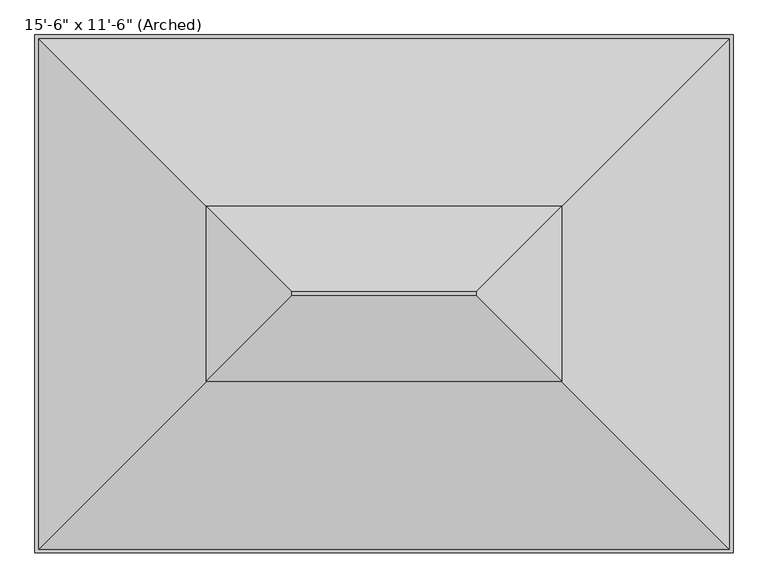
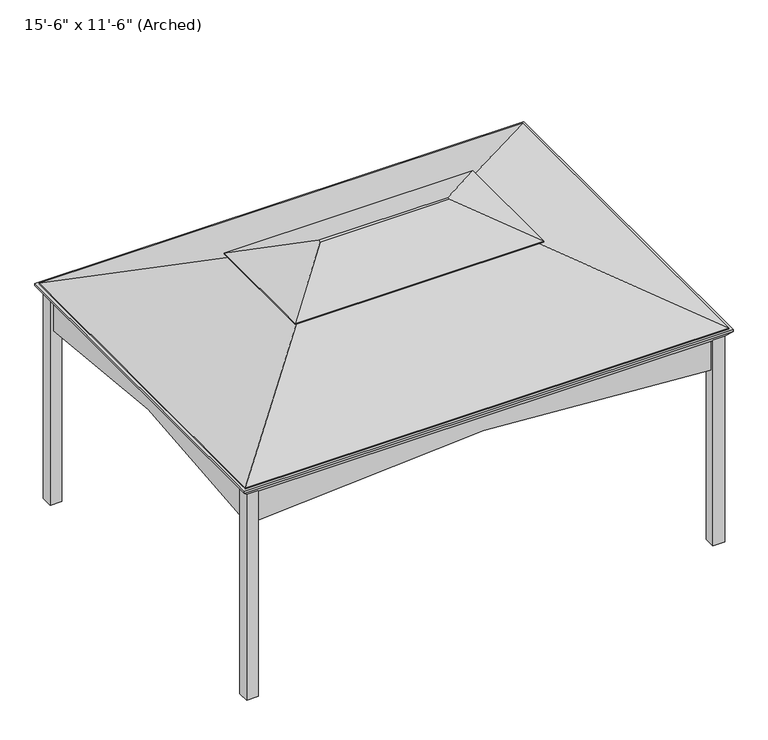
"""IFC4 building model written with IfcOpenShell, lengths in millimetres: proxy geometry."""

from ifc_helpers import new_model, si_unit, point, frame, frame_2d, origin, place, context, project, spatial, polyline, circle_curve, trimmed, segment, composite_curve, outline, extrude, faceted_brep, source, transform, mapped, element, save


def proxy_d6f00f2b(model_context):
    return source(origin(), model_context, "Body", "SolidModel", [
        extrude(outline(composite_curve([segment(polyline([(2082.8, -2197.1), (1778.0, -2197.1)]), True, "CONTINUOUS"), segment(trimmed(circle_curve(frame_2d((-13983.2291667, 0.0)), 15913.6291667), [point((1778.0, -2197.1))], [point((1778.0, 2197.1))], True, "CARTESIAN"), True, "CONTINUOUS"), segment(polyline([(1778.0, 2197.1), (2082.8, 2197.1), (2082.8, -2197.1)]), True, "CONTINUOUS")], self_intersect=False)), frame((0.0, -1670.05, 0.0), z_axis=(0.0, 1.0, 0.0), x_axis=(0.0, 0.0, 1.0)), (0.0, 0.0, 1.0), 25.4),
        extrude(outline(composite_curve([segment(polyline([(2082.8, -2197.1), (1778.0, -2197.1)]), True, "CONTINUOUS"), segment(trimmed(circle_curve(frame_2d((-13983.2291667, 0.0)), 15913.6291667), [point((1778.0, -2197.1))], [point((1778.0, 2197.1))], True, "CARTESIAN"), True, "CONTINUOUS"), segment(polyline([(1778.0, 2197.1), (2082.8, 2197.1), (2082.8, -2197.1)]), True, "CONTINUOUS")], self_intersect=False)), frame((0.0, 1644.65, 0.0), z_axis=(0.0, 1.0, 0.0), x_axis=(0.0, 0.0, 1.0)), (0.0, 0.0, 1.0), 25.4),
        extrude(outline(composite_curve([segment(polyline([(1587.5, 2082.8), (1587.5, 1778.0)]), True, "CONTINUOUS"), segment(trimmed(circle_curve(frame_2d((0.0, -6414.0291667)), 8344.4291667), [point((1587.5, 1778.0))], [point((-1587.5, 1778.0))], True, "CARTESIAN"), True, "CONTINUOUS"), segment(polyline([(-1587.5, 1778.0), (-1587.5, 2082.8), (1587.5, 2082.8)]), True, "CONTINUOUS")], self_intersect=False)), frame((2254.25, 0.0, 0.0), z_axis=(1.0, 0.0, 0.0), x_axis=(0.0, 1.0, 0.0)), (0.0, 0.0, 1.0), 25.4),
        extrude(outline(composite_curve([segment(polyline([(1587.5, 2082.8), (1587.5, 1778.0)]), True, "CONTINUOUS"), segment(trimmed(circle_curve(frame_2d((0.0, -6414.0291667)), 8344.4291667), [point((1587.5, 1778.0))], [point((-1587.5, 1778.0))], True, "CARTESIAN"), True, "CONTINUOUS"), segment(polyline([(-1587.5, 1778.0), (-1587.5, 2082.8), (1587.5, 2082.8)]), True, "CONTINUOUS")], self_intersect=False)), frame((-2279.65, 0.0, 0.0), z_axis=(1.0, 0.0, 0.0), x_axis=(0.0, 1.0, 0.0)), (0.0, 0.0, 1.0), 25.4),
        faceted_brep([(2362.2, -1752.6, 2184.4), (2362.2, 1752.6, 2184.4), (-2362.2, 1752.6, 2184.4), (-2362.2, -1752.6, 2184.4), (2197.1, 1587.5, 2184.4), (2254.25, 1587.5, 2184.4), (2254.25, -1587.5, 2184.4), (2197.1, -1587.5, 2184.4), (2197.1, -1644.65, 2184.4), (-2197.1, -1644.65, 2184.4), (-2197.1, -1587.5, 2184.4), (-2254.25, -1587.5, 2184.4), (-2254.25, 1587.5, 2184.4), (-2197.1, 1587.5, 2184.4), (-2197.1, 1644.65, 2184.4), (2197.1, 1644.65, 2184.4), (2197.1, 1587.5, 0.0), (2197.1, 1701.8, 0.0), (2311.4, 1701.8, 0.0), (2311.4, 1587.5, 0.0), (2311.4, 1587.5, 2105.3136364), (2292.35, 1587.5, 2082.8), (2254.25, 1587.5, 2082.8), (2311.4, 1701.8, 2105.3136364), (2197.1, 1701.8, 2105.3136364), (2197.1, 1644.65, 2082.8), (2197.1, 1682.75, 2082.8), (2292.35, -1587.5, 2082.8), (2254.25, -1587.5, 2082.8), (-2197.1, 1644.65, 2082.8), (-2197.1, 1682.75, 2082.8), (2197.1, -1644.65, 2082.8), (2197.1, -1682.75, 2082.8), (-2197.1, -1682.75, 2082.8), (-2197.1, -1644.65, 2082.8), (-2254.25, -1587.5, 2082.8), (-2292.35, -1587.5, 2082.8), (-2292.35, 1587.5, 2082.8), (-2254.25, 1587.5, 2082.8), (2362.2, 1752.6, 2165.35), (2362.2, -1752.6, 2165.35), (-2362.2, -1752.6, 2165.35), (-2362.2, 1752.6, 2165.35), (2311.4, -1587.5, 0.0), (2311.4, -1701.8, 0.0), (2197.1, -1701.8, 0.0), (2197.1, -1587.5, 0.0), (2311.4, -1587.5, 2105.3136364), (2197.1, -1701.8, 2105.3136364), (2311.4, -1701.8, 2105.3136364), (-2197.1, -1587.5, 0.0), (-2197.1, -1701.8, 0.0), (-2311.4, -1701.8, 0.0), (-2311.4, -1587.5, 0.0), (-2311.4, -1587.5, 2105.3136364), (-2311.4, -1701.8, 2105.3136364), (-2197.1, -1701.8, 2105.3136364), (-2311.4, 1587.5, 0.0), (-2311.4, 1701.8, 0.0), (-2197.1, 1701.8, 0.0), (-2197.1, 1587.5, 0.0), (-2311.4, 1587.5, 2105.3136364), (-2197.1, 1701.8, 2105.3136364), (-2311.4, 1701.8, 2105.3136364)], [[[0, 1, 2, 3], [4, 5, 6, 7, 8, 9, 10, 11, 12, 13, 14, 15]], [[16, 17, 18, 19]], [[16, 19, 20, 21, 22, 5, 4]], [[19, 18, 23, 20]], [[18, 17, 24, 23]], [[17, 16, 4, 15, 25, 26, 24]], [[22, 21, 27, 28]], [[26, 25, 29, 30]], [[31, 32, 33, 34]], [[35, 36, 37, 38]], [[25, 15, 14, 29]], [[39, 1, 0, 40]], [[40, 0, 3, 41]], [[41, 3, 2, 42]], [[1, 39, 42, 2]], [[43, 44, 45, 46]], [[43, 46, 7, 6, 28, 27, 47]], [[46, 45, 48, 32, 31, 8, 7]], [[45, 44, 49, 48]], [[44, 43, 47, 49]], [[50, 51, 52, 53]], [[50, 53, 54, 36, 35, 11, 10]], [[53, 52, 55, 54]], [[52, 51, 56, 55]], [[51, 50, 10, 9, 34, 33, 56]], [[57, 58, 59, 60]], [[57, 60, 13, 12, 38, 37, 61]], [[60, 59, 62, 30, 29, 14, 13]], [[59, 58, 63, 62]], [[58, 57, 61, 63]], [[5, 22, 28, 6]], [[8, 31, 34, 9]], [[11, 35, 38, 12]], [[39, 40, 49, 47, 27, 21, 20, 23]], [[40, 41, 55, 56, 33, 32, 48, 49]], [[41, 42, 63, 61, 37, 36, 54, 55]], [[42, 39, 23, 24, 26, 30, 62, 63]]]),
        faceted_brep([(623.5641406, 13.9641406, 3073.4), (-623.5641406, 13.9641406, 3073.4), (-623.5641406, -13.9641406, 3073.4), (623.5641406, -13.9641406, 3073.4), (-1201.9221406, 592.3221406, 2794.0), (-1201.9221406, -592.3221406, 2794.0), (1201.9221406, -592.3221406, 2794.0), (1201.9221406, 592.3221406, 2794.0), (1201.9221406, 592.3221406, 2781.3), (1201.9221406, -592.3221406, 2781.3), (-1201.9221406, -592.3221406, 2781.3), (-1201.9221406, 592.3221406, 2781.3), (623.5641406, 13.9641406, 3060.7), (623.5641406, -13.9641406, 3060.7), (-623.5641406, -13.9641406, 3060.7), (-623.5641406, 13.9641406, 3060.7)], [[[0, 1, 2, 3]], [[2, 1, 4, 5]], [[0, 3, 6, 7]], [[8, 7, 6, 9]], [[9, 6, 5, 10]], [[10, 5, 4, 11]], [[7, 8, 11, 4]], [[12, 13, 14, 15]], [[15, 14, 10, 11]], [[13, 12, 8, 9]], [[1, 0, 7, 4]], [[3, 2, 5, 6]], [[12, 15, 11, 8]], [[14, 13, 9, 10]]]),
        faceted_brep([(-2336.7941406, 1727.1941406, 2197.1), (-1074.9221406, 465.3221406, 2806.7), (1074.9221406, 465.3221406, 2806.7), (2336.7941406, 1727.1941406, 2197.1), (-2336.7941406, -1727.1941406, 2197.1), (-1074.9221406, -465.3221406, 2806.7), (2336.7941406, -1727.1941406, 2197.1), (1074.9221406, -465.3221406, 2806.7), (2336.7941406, 1727.1941406, 2184.4), (2336.7941406, -1727.1941406, 2184.4), (-2336.7941406, -1727.1941406, 2184.4), (-2336.7941406, 1727.1941406, 2184.4), (1074.9221406, 465.3221406, 2794.0), (-1074.9221406, 465.3221406, 2794.0), (-1074.9221406, -465.3221406, 2794.0), (1074.9221406, -465.3221406, 2794.0)], [[[0, 1, 2, 3]], [[1, 0, 4, 5]], [[5, 4, 6, 7]], [[3, 2, 7, 6]], [[8, 3, 6, 9]], [[9, 6, 4, 10]], [[10, 4, 0, 11]], [[3, 8, 11, 0]], [[8, 12, 13, 11]], [[11, 13, 14, 10]], [[10, 14, 15, 9]], [[12, 8, 9, 15]], [[7, 2, 12, 15]], [[5, 7, 15, 14]], [[1, 5, 14, 13]], [[2, 1, 13, 12]]]),
    ])


if __name__ == "__main__":
    model = new_model("IFC4")
    model_context = context("Model", 3, world=origin())
    ifc_project = project(units=[si_unit("LENGTHUNIT", "METRE", prefix="MILLI")], contexts=[model_context])
    site = spatial("IfcSite", under=ifc_project)
    building = spatial("IfcBuilding", under=site)
    placement = place(None, origin())
    proxy_shape = proxy_d6f00f2b(model_context)
    element("IfcBuildingElementProxy", 1, Name="Gazebo : 15'-6\" x 11'-6\" (Arched)", ObjectType="Gazebo : 15'-6\" x 11'-6\" (Arched)", at=placement, inside=building, context=model_context, shape_type="MappedRepresentation", body=[
        mapped(proxy_shape, transform((0.0, 0.0, 0.0), x_axis=(1.0, 0.0, 0.0), y_axis=(0.0, 1.0, 0.0), z_axis=(0.0, 0.0, 1.0))),
    ])
    save(model, "model.ifc")
